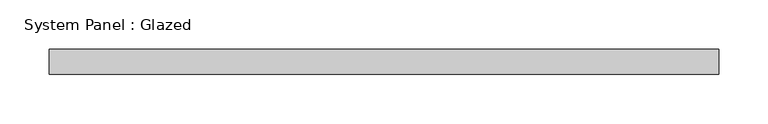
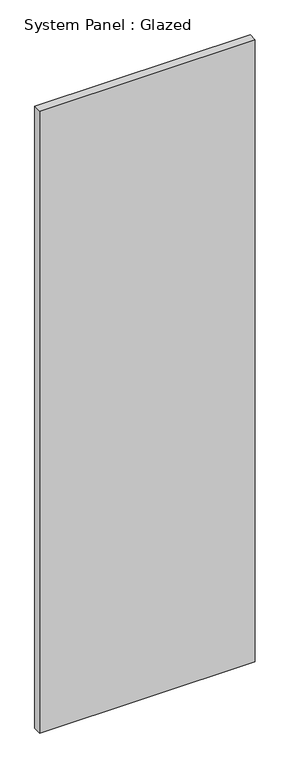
"""IFC4 building model written with IfcOpenShell, lengths in millimetres: plate geometry, System Panel : Glazed."""

from ifc_helpers import new_model, si_unit, origin, origin_with_axes, place, context, project, spatial, polyline, outline, extrude, source, transform, mapped, element, save


def system_panel_glazed_e5bdcb8c(model_context):
    return source(origin(), model_context, "Body", "SweptSolid", [
        extrude(outline(polyline([(339.725, 19.05), (-339.725, 19.05), (-339.725, 44.45), (339.725, 44.45), (339.725, 19.05)])), origin_with_axes(), (0.0, 0.0, 1.0), 2070.1),
    ])


if __name__ == "__main__":
    model = new_model("IFC4")
    model_context = context("Model", 3, world=origin())
    ifc_project = project(units=[si_unit("LENGTHUNIT", "METRE", prefix="MILLI")], contexts=[model_context])
    site = spatial("IfcSite", under=ifc_project)
    building = spatial("IfcBuilding", under=site)
    placement = place(None, origin())
    system_panel_glazed_shape = system_panel_glazed_e5bdcb8c(model_context)
    element("IfcPlate", 1, ObjectType="System Panel : Glazed", at=placement, inside=building, context=model_context, shape_type="MappedRepresentation", body=[
        mapped(system_panel_glazed_shape, transform((0.0, 0.0, 0.0), x_axis=(1.0, 0.0, 0.0), y_axis=(0.0, 1.0, 0.0), z_axis=(0.0, 0.0, 1.0))),
    ])
    save(model, "model.ifc")
